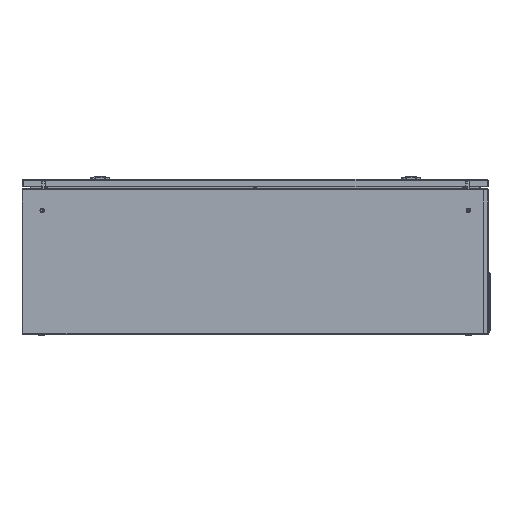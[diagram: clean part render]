
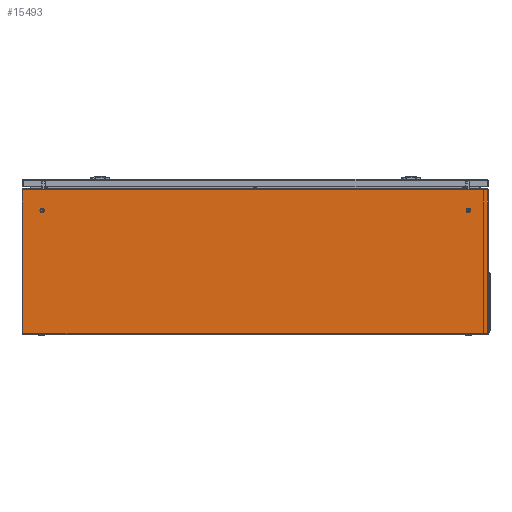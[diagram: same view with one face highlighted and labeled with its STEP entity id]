
A CAD part, left-side view. The second image highlights one B-rep face of the part: STEP entity #15493.
In plain terms, the highlighted planar face has unit normal (-1, 0, 0).
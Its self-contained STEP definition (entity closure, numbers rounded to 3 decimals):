
#470 = VERTEX_POINT ( 'NONE', #109382 ) ;
#3215 = DIRECTION ( 'NONE',  ( 0., 0., -1. ) ) ;
#4688 = LINE ( 'NONE', #52531, #132825 ) ;
#5599 = CARTESIAN_POINT ( 'NONE',  ( -1.2, 185.1, 597. ) ) ;
#6106 = CARTESIAN_POINT ( 'NONE',  ( -1.2, 185.1, 597. ) ) ;
#7334 = VERTEX_POINT ( 'NONE', #102082 ) ;
#9111 = CARTESIAN_POINT ( 'NONE',  ( -1.2, 185.1, 598.8 ) ) ;
#10460 = EDGE_CURVE ( 'NONE', #43782, #63751, #21662, .T. ) ;
#10612 = ORIENTED_EDGE ( 'NONE', *, *, #47618, .F. ) ;
#11328 = LINE ( 'NONE', #9111, #21256 ) ;
#12251 = PLANE ( 'NONE',  #98536 ) ;
#12630 = DIRECTION ( 'NONE',  ( 0., 0., -1. ) ) ;
#13877 = ORIENTED_EDGE ( 'NONE', *, *, #84565, .T. ) ;
#13927 = EDGE_LOOP ( 'NONE', ( #10612, #101626, #114366, #112209, #64083, #13877, #54744 ) ) ;
#15493 = ADVANCED_FACE ( 'NONE', ( #81130 ), #12251, .F. ) ;
#21256 = VECTOR ( 'NONE', #145443, 1000. ) ;
#21662 = LINE ( 'NONE', #56762, #60674 ) ;
#28047 = DIRECTION ( 'NONE',  ( 0., -1., 0. ) ) ;
#28612 = VECTOR ( 'NONE', #136188, 1000. ) ;
#30863 = VECTOR ( 'NONE', #28047, 1000. ) ;
#34713 = CARTESIAN_POINT ( 'NONE',  ( -1.2, -185.1, -598.8 ) ) ;
#35487 = EDGE_CURVE ( 'NONE', #111718, #7334, #123674, .T. ) ;
#41134 = CARTESIAN_POINT ( 'NONE',  ( -1.2, -185.1, 597. ) ) ;
#43782 = VERTEX_POINT ( 'NONE', #41134 ) ;
#47618 = EDGE_CURVE ( 'NONE', #96424, #43782, #95467, .T. ) ;
#52531 = CARTESIAN_POINT ( 'NONE',  ( -1.2, 185.1, 597. ) ) ;
#54744 = ORIENTED_EDGE ( 'NONE', *, *, #10460, .F. ) ;
#56716 = LINE ( 'NONE', #98973, #28612 ) ;
#56762 = CARTESIAN_POINT ( 'NONE',  ( -1.2, -185.1, 598.8 ) ) ;
#57744 = EDGE_CURVE ( 'NONE', #96473, #7334, #82461, .T. ) ;
#60674 = VECTOR ( 'NONE', #12630, 1000. ) ;
#63751 = VERTEX_POINT ( 'NONE', #64493 ) ;
#64083 = ORIENTED_EDGE ( 'NONE', *, *, #57744, .F. ) ;
#64493 = CARTESIAN_POINT ( 'NONE',  ( -1.2, -185.1, 596.95 ) ) ;
#65617 = EDGE_CURVE ( 'NONE', #96424, #470, #4688, .T. ) ;
#70854 = CARTESIAN_POINT ( 'NONE',  ( -1.2, 185.1, -597.6 ) ) ;
#74167 = VECTOR ( 'NONE', #128110, 1000. ) ;
#81130 = FACE_OUTER_BOUND ( 'NONE', #13927, .T. ) ;
#82461 = LINE ( 'NONE', #84678, #74167 ) ;
#82587 = DIRECTION ( 'NONE',  ( 1., 0., 0. ) ) ;
#82942 = VECTOR ( 'NONE', #124422, 1000. ) ;
#84565 = EDGE_CURVE ( 'NONE', #96473, #63751, #56716, .T. ) ;
#84678 = CARTESIAN_POINT ( 'NONE',  ( -1.2, -185.1, 598.8 ) ) ;
#95467 = LINE ( 'NONE', #5599, #30863 ) ;
#96424 = VERTEX_POINT ( 'NONE', #6106 ) ;
#96473 = VERTEX_POINT ( 'NONE', #142429 ) ;
#98536 = AXIS2_PLACEMENT_3D ( 'NONE', #34713, #82587, #3215 ) ;
#98973 = CARTESIAN_POINT ( 'NONE',  ( -1.2, -185.1, -597.55 ) ) ;
#101626 = ORIENTED_EDGE ( 'NONE', *, *, #65617, .T. ) ;
#102082 = CARTESIAN_POINT ( 'NONE',  ( -1.2, -185.1, -597.6 ) ) ;
#109382 = CARTESIAN_POINT ( 'NONE',  ( -1.2, 185.1, -597.3 ) ) ;
#111718 = VERTEX_POINT ( 'NONE', #70854 ) ;
#112209 = ORIENTED_EDGE ( 'NONE', *, *, #35487, .T. ) ;
#114366 = ORIENTED_EDGE ( 'NONE', *, *, #124102, .F. ) ;
#123674 = LINE ( 'NONE', #125899, #82942 ) ;
#124102 = EDGE_CURVE ( 'NONE', #111718, #470, #11328, .T. ) ;
#124422 = DIRECTION ( 'NONE',  ( 0., -1., 0. ) ) ;
#125899 = CARTESIAN_POINT ( 'NONE',  ( -1.2, 185.1, -597.6 ) ) ;
#128110 = DIRECTION ( 'NONE',  ( 0., 0., -1. ) ) ;
#132723 = DIRECTION ( 'NONE',  ( 0., 0., -1. ) ) ;
#132825 = VECTOR ( 'NONE', #132723, 1000. ) ;
#136188 = DIRECTION ( 'NONE',  ( 0., 0., 1. ) ) ;
#142429 = CARTESIAN_POINT ( 'NONE',  ( -1.2, -185.1, -597.55 ) ) ;
#145443 = DIRECTION ( 'NONE',  ( 0., 0., 1. ) ) ;
